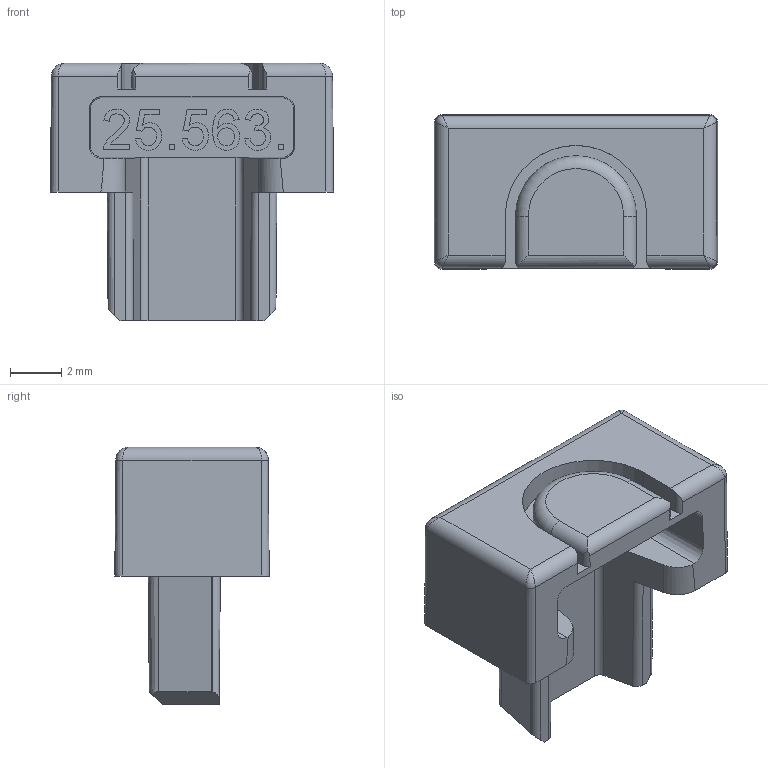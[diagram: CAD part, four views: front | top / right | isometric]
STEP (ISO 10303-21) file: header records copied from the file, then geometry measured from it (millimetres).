
FILE_DESCRIPTION (( 'STEP AP203' ), '1' );
FILE_NAME ('Endkappen_ChannelLine_i_24.STEP', '2024-11-29T06:20:25', ( '' ), ( '' ), 'SwSTEP 2.0', 'SolidWorks 2023', '' );
FILE_SCHEMA (( 'CONFIG_CONTROL_DESIGN' ));
Length unit declared in the file: millimetre
Products named in the file (1): Endkappen_ChannelLine_i_24
Bounding box: 11 x 6 x 10 mm (x, y, z)
Volume: 252.9 mm3; surface area: 469 mm2
Topology: 1 solids, 1 shells, 161 faces, 443 edges, 288 vertices
Faces by surface type: plane 67, bspline 60, cylinder 20, cone 13, torus 1
Entity records: 8972 total; most frequent: CARTESIAN_POINT 5330, ORIENTED_EDGE 878, DIRECTION 508, EDGE_CURVE 439, VERTEX_POINT 288, VECTOR 252, LINE 252, EDGE_LOOP 169
